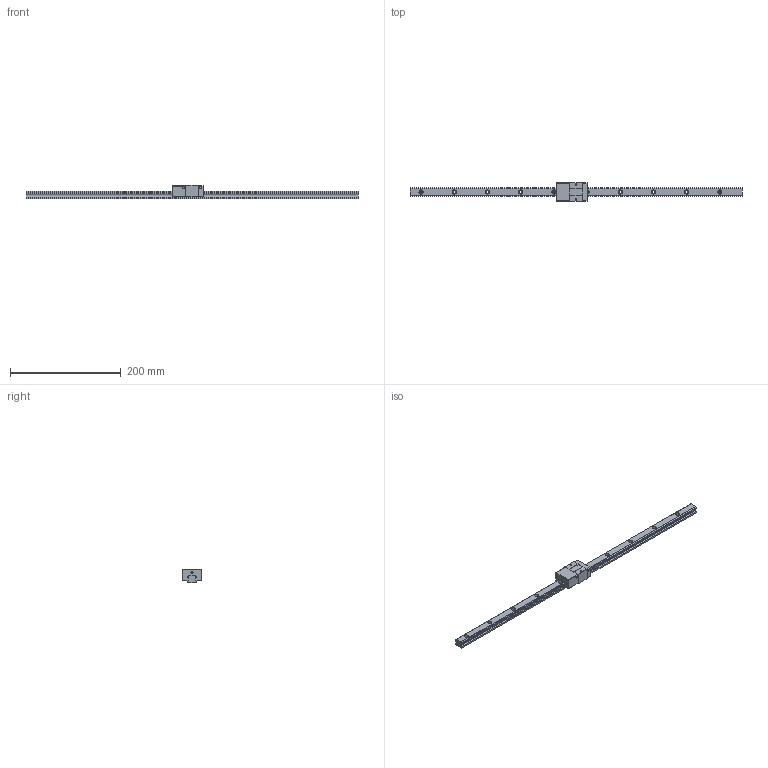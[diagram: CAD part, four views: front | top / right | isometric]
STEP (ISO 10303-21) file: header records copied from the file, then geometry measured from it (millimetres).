
FILE_DESCRIPTION (( 'STEP AP203' ), '1' );
FILE_NAME ('TRS15VS-BN.STEP', '2024-07-11T09:04:06', ( '' ), ( '' ), 'SwSTEP 2.0', 'SolidWorks 2022', '' );
FILE_SCHEMA (( 'CONFIG_CONTROL_DESIGN' ));
Length unit declared in the file: millimetre
Products named in the file (1): TRS15VS-BN
Bounding box: 600 x 34 x 24 mm (x, y, z)
Volume: 131556 mm3; surface area: 45941.6 mm2
Topology: 2 solids, 2 shells, 186 faces, 484 edges, 320 vertices
Faces by surface type: plane 94, cylinder 92
Entity records: 5863 total; most frequent: DIRECTION 1042, CARTESIAN_POINT 991, ORIENTED_EDGE 968, EDGE_CURVE 484, AXIS2_PLACEMENT_3D 371, VERTEX_POINT 320, LINE 300, VECTOR 300
